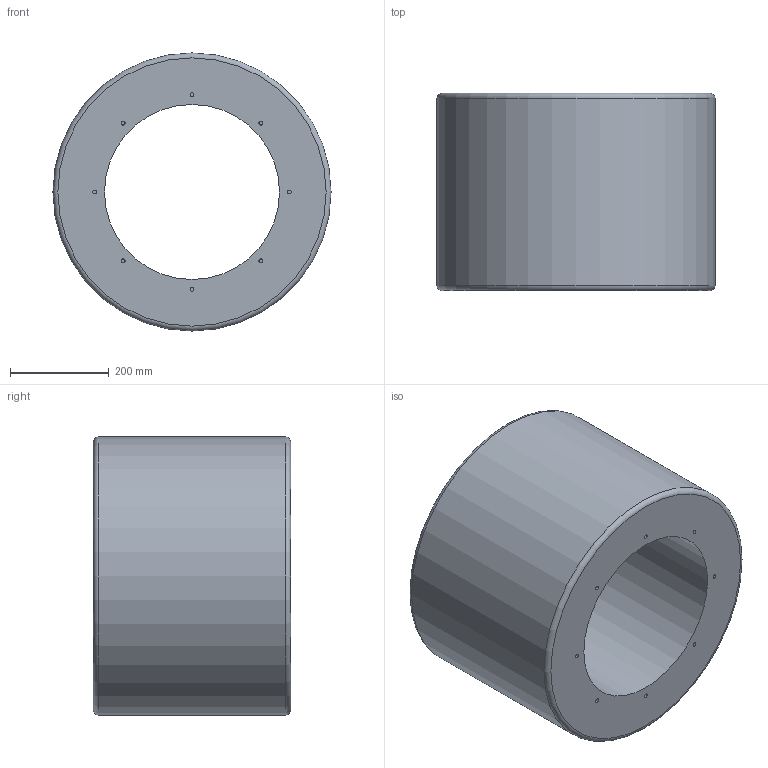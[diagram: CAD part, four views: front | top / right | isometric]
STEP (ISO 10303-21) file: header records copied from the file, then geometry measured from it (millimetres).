
FILE_DESCRIPTION(/* description */ (''),/* implementation_level */ '2;1');
FILE_NAME(/* name */ 'Z:\Output\RSD_355-400-08746-002.stp',/* time_stamp */ '2017-09-20T12:04:02+02:00',/* author */ ('Engineering1'),/* organization */ (''),/* preprocessor_version */ 'ST-DEVELOPER v16.5',/* originating_system */ 'Autodesk Inventor 2017',/* authorisation */ '');
FILE_SCHEMA (('AUTOMOTIVE_DESIGN { 1 0 10303 214 3 1 1 }'));
Length unit declared in the file: millimetre
Products named in the file (1): RSD-1
Bounding box: 564 x 400 x 564 mm (x, y, z)
Volume: 60257395.3 mm3; surface area: 1445276.4 mm2
Topology: 1 solids, 1 shells, 38 faces, 58 edges, 38 vertices
Faces by surface type: cylinder 18, plane 18, torus 2
Full cylindrical faces by diameter (mm): 8 x16, 355 x1, 564 x1
Entity records: 806 total; most frequent: DIRECTION 154, CARTESIAN_POINT 115, AXIS2_PLACEMENT_3D 77, EDGE_LOOP 76, ORIENTED_EDGE 76, FACE_BOUND 38, FACE_OUTER_BOUND 38, CIRCLE 38
